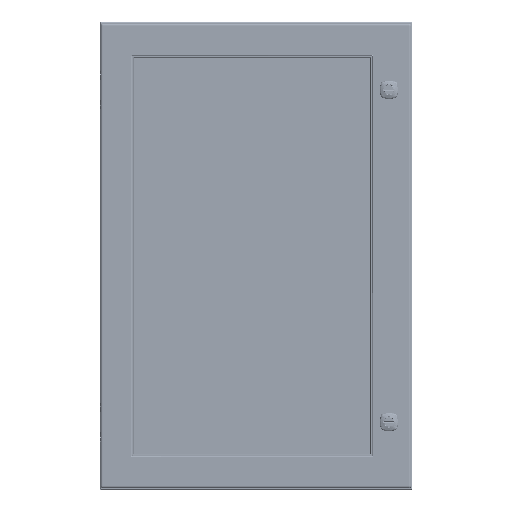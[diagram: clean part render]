
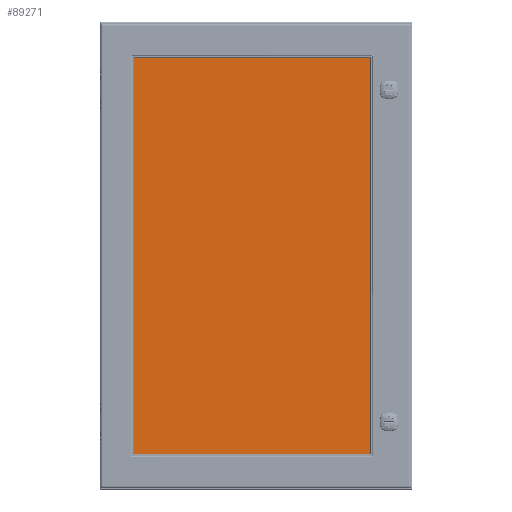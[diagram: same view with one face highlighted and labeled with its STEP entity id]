
A CAD part, top view. The second image highlights one B-rep face of the part: STEP entity #89271.
In plain terms, the highlighted planar face has unit normal (0, 0, 1).
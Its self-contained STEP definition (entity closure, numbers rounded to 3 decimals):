
#9839=LINE('',#151284,#16054);
#9845=LINE('',#151304,#16060);
#9848=LINE('',#151312,#16063);
#9850=LINE('',#151318,#16065);
#16054=VECTOR('',#108655,0.394);
#16060=VECTOR('',#108675,0.394);
#16063=VECTOR('',#108684,0.394);
#16065=VECTOR('',#108692,0.394);
#23543=FACE_OUTER_BOUND('',#28958,.T.);
#28958=EDGE_LOOP('',(#68749,#68750,#68751,#68752,#68753,#68754,#68755,#68756));
#33611=CIRCLE('',#96466,0.25);
#33616=CIRCLE('',#96474,0.25);
#33617=CIRCLE('',#96477,0.25);
#33618=CIRCLE('',#96480,0.25);
#38599=VERTEX_POINT('',#151271);
#38600=VERTEX_POINT('',#151272);
#38604=VERTEX_POINT('',#151282);
#38610=VERTEX_POINT('',#151298);
#38611=VERTEX_POINT('',#151302);
#38612=VERTEX_POINT('',#151306);
#38613=VERTEX_POINT('',#151310);
#38614=VERTEX_POINT('',#151314);
#49380=EDGE_CURVE('',#38599,#38600,#33611,.T.);
#49386=EDGE_CURVE('',#38604,#38599,#9839,.T.);
#49393=EDGE_CURVE('',#38610,#38604,#33616,.T.);
#49396=EDGE_CURVE('',#38611,#38610,#9845,.T.);
#49397=EDGE_CURVE('',#38612,#38611,#33617,.T.);
#49400=EDGE_CURVE('',#38613,#38612,#9848,.T.);
#49401=EDGE_CURVE('',#38614,#38613,#33618,.T.);
#49403=EDGE_CURVE('',#38600,#38614,#9850,.T.);
#68749=ORIENTED_EDGE('',*,*,#49380,.F.);
#68750=ORIENTED_EDGE('',*,*,#49386,.F.);
#68751=ORIENTED_EDGE('',*,*,#49393,.F.);
#68752=ORIENTED_EDGE('',*,*,#49396,.F.);
#68753=ORIENTED_EDGE('',*,*,#49397,.F.);
#68754=ORIENTED_EDGE('',*,*,#49400,.F.);
#68755=ORIENTED_EDGE('',*,*,#49401,.F.);
#68756=ORIENTED_EDGE('',*,*,#49403,.F.);
#85725=PLANE('',#96482);
#89271=ADVANCED_FACE('',(#23543),#85725,.T.);
#96466=AXIS2_PLACEMENT_3D('',#151273,#108645,#108646);
#96474=AXIS2_PLACEMENT_3D('',#151299,#108669,#108670);
#96477=AXIS2_PLACEMENT_3D('',#151307,#108678,#108679);
#96480=AXIS2_PLACEMENT_3D('',#151315,#108687,#108688);
#96482=AXIS2_PLACEMENT_3D('',#151319,#108693,#108694);
#108645=DIRECTION('center_axis',(0.,0.,-1.));
#108646=DIRECTION('ref_axis',(-0.707,-0.707,0.));
#108655=DIRECTION('',(-1.,0.,0.));
#108669=DIRECTION('center_axis',(0.,0.,-1.));
#108670=DIRECTION('ref_axis',(0.707,-0.707,0.));
#108675=DIRECTION('',(0.,-1.,0.));
#108678=DIRECTION('center_axis',(0.,0.,-1.));
#108679=DIRECTION('ref_axis',(0.707,0.707,0.));
#108684=DIRECTION('',(1.,0.,0.));
#108687=DIRECTION('center_axis',(0.,0.,-1.));
#108688=DIRECTION('ref_axis',(-0.707,0.707,0.));
#108692=DIRECTION('',(0.,1.,0.));
#108693=DIRECTION('center_axis',(0.,0.,1.));
#108694=DIRECTION('ref_axis',(1.,0.,0.));
#151271=CARTESIAN_POINT('',(-7.813,-13.188,0.25));
#151272=CARTESIAN_POINT('',(-8.063,-12.938,0.25));
#151273=CARTESIAN_POINT('Origin',(-7.813,-12.938,0.25));
#151282=CARTESIAN_POINT('',(7.813,-13.188,0.25));
#151284=CARTESIAN_POINT('',(-8.063,-13.188,0.25));
#151298=CARTESIAN_POINT('',(8.063,-12.938,0.25));
#151299=CARTESIAN_POINT('Origin',(7.813,-12.938,0.25));
#151302=CARTESIAN_POINT('',(8.062,12.938,0.25));
#151304=CARTESIAN_POINT('',(8.063,-13.188,0.25));
#151306=CARTESIAN_POINT('',(7.812,13.188,0.25));
#151307=CARTESIAN_POINT('Origin',(7.812,12.938,0.25));
#151310=CARTESIAN_POINT('',(-7.812,13.188,0.25));
#151312=CARTESIAN_POINT('',(8.062,13.188,0.25));
#151314=CARTESIAN_POINT('',(-8.062,12.938,0.25));
#151315=CARTESIAN_POINT('Origin',(-7.812,12.938,0.25));
#151318=CARTESIAN_POINT('',(-8.062,13.188,0.25));
#151319=CARTESIAN_POINT('Origin',(0.,0.,0.25));
